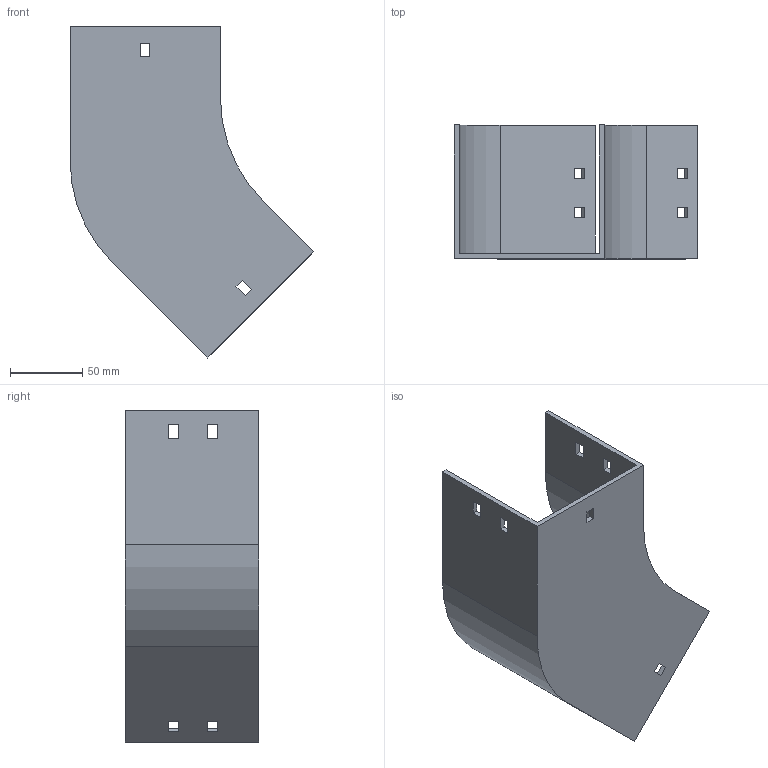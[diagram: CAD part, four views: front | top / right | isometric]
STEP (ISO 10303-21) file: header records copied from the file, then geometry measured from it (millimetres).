
FILE_DESCRIPTION (( 'STEP AP214' ), '1' );
FILE_NAME ('11B1I100.step', '2025-02-21T09:39:02', ( '' ), ( '' ), 'SwSTEP 2.0', 'SolidWorks 2023', '' );
FILE_SCHEMA (( 'AUTOMOTIVE_DESIGN' ));
Length unit declared in the file: millimetre
Products named in the file (1): 11B1I100
Bounding box: 168.64 x 92.5 x 229.61 mm (x, y, z)
Volume: 217933.7 mm3; surface area: 129227.9 mm2
Topology: 1 solids, 1 shells, 58 faces, 168 edges, 112 vertices
Faces by surface type: plane 54, cylinder 4
Entity records: 1943 total; most frequent: CARTESIAN_POINT 339, ORIENTED_EDGE 336, DIRECTION 294, EDGE_CURVE 168, VECTOR 160, LINE 160, VERTEX_POINT 112, EDGE_LOOP 78
